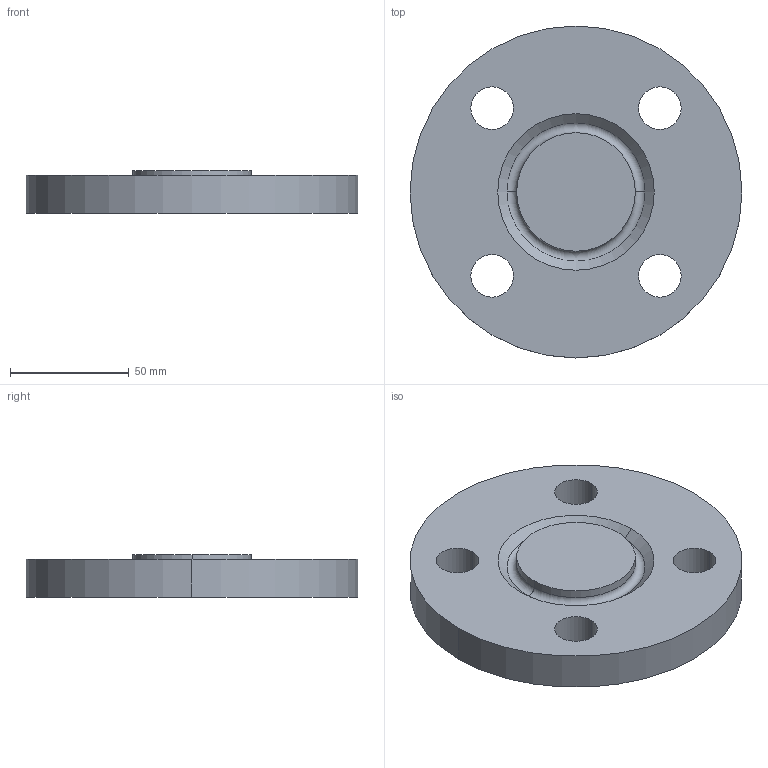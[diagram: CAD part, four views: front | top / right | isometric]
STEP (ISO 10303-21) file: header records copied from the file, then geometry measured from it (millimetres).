
FILE_DESCRIPTION (( 'STEP AP214' ), '1' );
FILE_NAME ('PN40 DN32 Type 05 - Type H Face.STEP', '2018-12-30T00:01:16', ( '' ), ( '' ), 'SwSTEP 2.0', 'SolidWorks 2019', '' );
FILE_SCHEMA (( 'AUTOMOTIVE_DESIGN' ));
Length unit declared in the file: millimetre
Products named in the file (1): PN40 DN32 Type 05 - Type H Face
Bounding box: 140 x 140 x 18 mm (x, y, z)
Volume: 230148.1 mm3; surface area: 40460.7 mm2
Topology: 1 solids, 1 shells, 19 faces, 44 edges, 28 vertices
Faces by surface type: cylinder 12, plane 3, torus 2, cone 2
Entity records: 606 total; most frequent: DIRECTION 114, CARTESIAN_POINT 92, ORIENTED_EDGE 88, AXIS2_PLACEMENT_3D 50, EDGE_CURVE 44, CIRCLE 30, EDGE_LOOP 28, VERTEX_POINT 28
